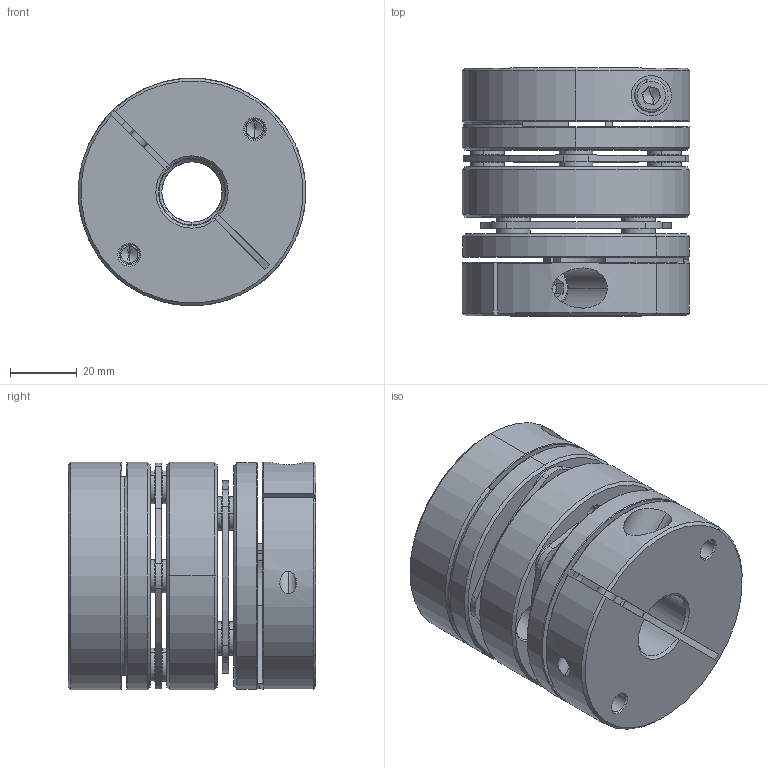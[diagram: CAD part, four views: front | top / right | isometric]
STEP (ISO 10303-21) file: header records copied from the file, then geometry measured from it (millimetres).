
FILE_DESCRIPTION (( 'STEP AP203' ), '1' );
FILE_NAME ('LD2-D68-18-20.STEP', '2021-10-26T08:24:01', ( '' ), ( '' ), 'SwSTEP 2.0', 'SolidWorks 2018', '' );
FILE_SCHEMA (( 'CONFIG_CONTROL_DESIGN' ));
Length unit declared in the file: millimetre
Products named in the file (2): 錨璃102^LD2-D68; LD2-D68-18-20
Assembly tree (1 placements, depth 2):
  LD2-D68-18-20
    錨璃102^LD2-D68
Bounding box: 68 x 74 x 68 mm (x, y, z)
Volume: 191107.2 mm3; surface area: 64824.2 mm2
Topology: 1 solids, 27 shells, 740 faces, 1720 edges, 1048 vertices
Faces by surface type: cylinder 260, cone 226, plane 224, torus 30
Entity records: 21674 total; most frequent: DIRECTION 4030, CARTESIAN_POINT 3954, ORIENTED_EDGE 3392, EDGE_CURVE 1696, AXIS2_PLACEMENT_3D 1636, VERTEX_POINT 1048, CIRCLE 892, EDGE_LOOP 876
